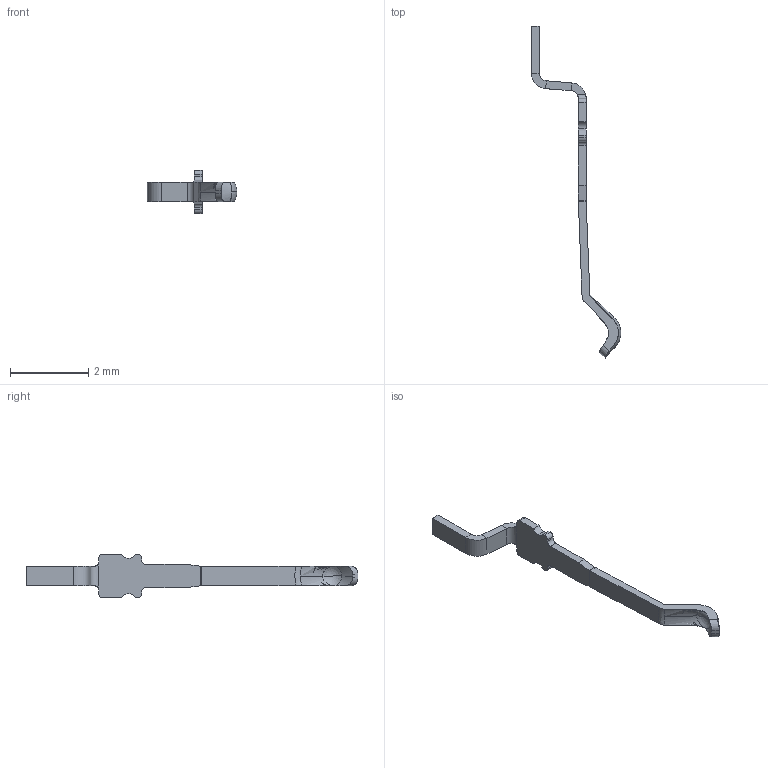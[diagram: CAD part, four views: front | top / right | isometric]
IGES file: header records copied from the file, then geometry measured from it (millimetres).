
Start section:  PTC IGES file: t-dsc20-200x00-1_1_prt.igs
Global section: file name: t-dsc20-200x00-1_1_prt.igs; native system: Pro/ENGINEER by Parametric Technology Corporation; preprocessor: 2006170; author: GRA; organization: Unknown; date: 20080630.105213; units: millimetre
Bounding box: 2.28 x 8.47 x 1.1 mm (x, y, z)
Surface area: 15.5 mm2 (no closed solid volume)
Topology: 0 solids, 0 shells, 64 faces, 342 edges, 338 vertices
Faces by surface type: bspline 35, revolution 29
